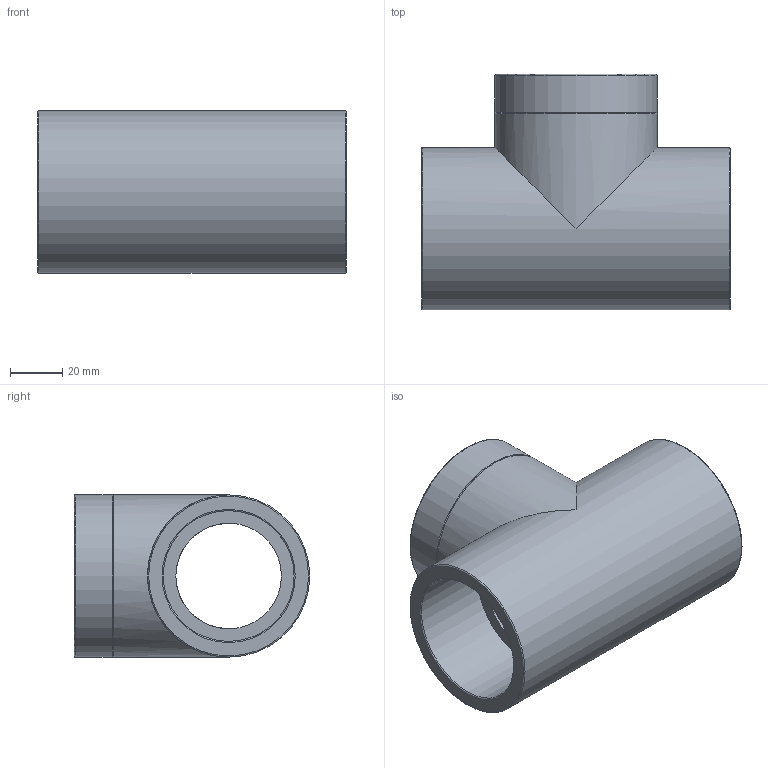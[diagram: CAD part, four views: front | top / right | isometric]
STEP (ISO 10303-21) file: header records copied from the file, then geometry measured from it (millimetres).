
FILE_DESCRIPTION(/* description */ ('PLASSON NOT ACTIVE- TEE THR-CEM REINF. P 50-1.1/2"'),/* implementation_level */ '2;1');
FILE_NAME(/* name */ 'C:\Dropbox\KIMPROJECTS-Inventor\99-16-3568-Processing\PVC Catalog 2017\057402\050402050015.ipt.stp',/* time_stamp */ '2017-12-07T16:06:00+02:00',/* author */ ('KIM'),/* organization */ (''),/* preprocessor_version */ 'ST-DEVELOPER v15.6',/* originating_system */ 'Autodesk Inventor 2015',/* authorisation */ '');
FILE_SCHEMA (('AUTOMOTIVE_DESIGN { 1 0 10303 214 3 1 1 }'));
Length unit declared in the file: millimetre
Products named in the file (1): 050402050015
Bounding box: 118 x 90 x 62 mm (x, y, z)
Volume: 201316.3 mm3; surface area: 53325 mm2
Topology: 1 solids, 1 shells, 21 faces, 45 edges, 28 vertices
Faces by surface type: cylinder 8, plane 6, torus 5, cone 2
Full cylindrical faces by diameter (mm): 40.361 x2, 44.845 x1, 50 x2, 62 x3
Entity records: 486 total; most frequent: DIRECTION 92, CARTESIAN_POINT 70, ORIENTED_EDGE 48, AXIS2_PLACEMENT_3D 46, EDGE_LOOP 44, VERTEX_POINT 24, EDGE_CURVE 24, FACE_BOUND 23
